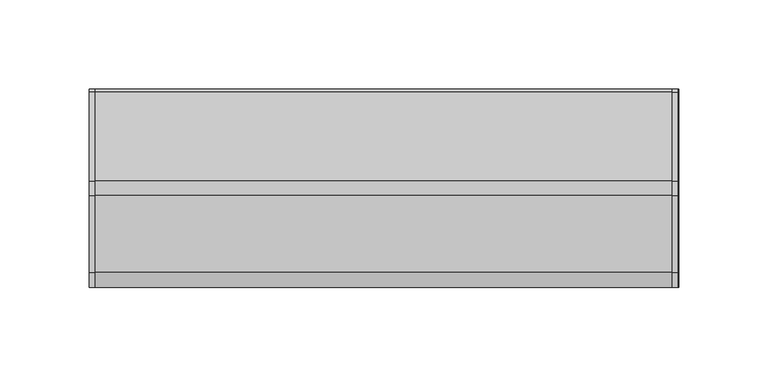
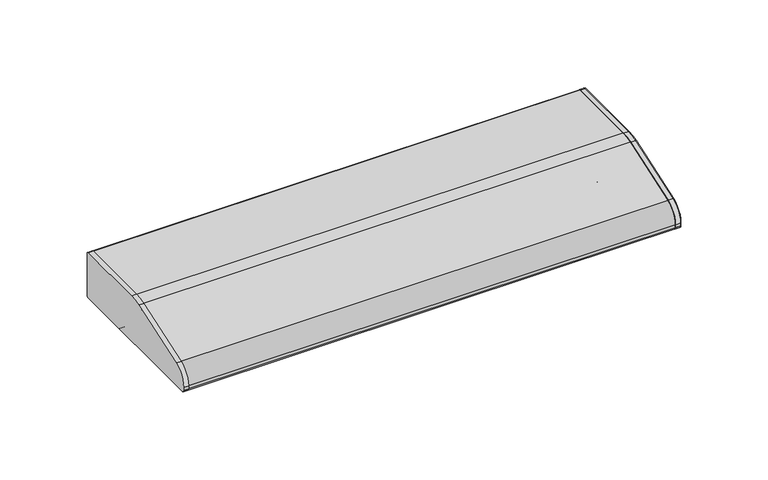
"""IFC4 building model written with IfcOpenShell, lengths in millimetres: light fixture geometry, HermanMiller_SupplementalProducts_G6136_UtilityTaskLight : AO Etho Canvas 24W."""

from ifc_helpers import new_model, si_unit, point, frame, frame_2d, origin, place, context, project, spatial, polyline, circle_curve, trimmed, segment, composite_curve, outline, extrude, source, transform, mapped, element, save


def light_fixture_56844cd6(model_context):
    return source(origin(), model_context, "Body", "SweptSolid", [
        extrude(outline(composite_curve([segment(polyline([(53.975, 1276.35), (-53.975, 1276.35)]), True, "CONTINUOUS"), segment(trimmed(circle_curve(frame_2d((-53.975, 1277.9375)), 1.5875), [point((-53.975, 1276.35))], [point((-55.5625, 1277.9375))], False, "CARTESIAN"), True, "CONTINUOUS"), segment(polyline([(-55.5625, 1277.9375), (-55.5625, 1279.9785714)]), True, "CONTINUOUS"), segment(trimmed(circle_curve(frame_2d((-42.8625, 1279.9785714)), 12.7), [point((-55.5625, 1279.9785714))], [point((-46.9814189, 1291.9920849))], False, "CARTESIAN"), True, "CONTINUOUS"), segment(polyline([(-46.9814189, 1291.9920849), (-4.0045045, 1306.727027)]), True, "CONTINUOUS"), segment(trimmed(circle_curve(frame_2d((4.2333333, 1282.7)), 25.4), [point((-4.0045045, 1306.727027))], [point((4.2333333, 1308.1))], False, "CARTESIAN"), True, "CONTINUOUS"), segment(polyline([(4.2333333, 1308.1), (53.975, 1308.1)]), True, "CONTINUOUS"), segment(trimmed(circle_curve(frame_2d((53.975, 1306.5125)), 1.5875), [point((53.975, 1308.1))], [point((55.5625, 1306.5125))], False, "CARTESIAN"), True, "CONTINUOUS"), segment(polyline([(55.5625, 1306.5125), (55.5625, 1277.9375)]), True, "CONTINUOUS"), segment(trimmed(circle_curve(frame_2d((53.975, 1277.9375)), 1.5875), [point((55.5625, 1277.9375))], [point((53.975, 1276.35))], False, "CARTESIAN"), True, "CONTINUOUS")], self_intersect=False)), frame((161.544, 0.0, 0.0), z_axis=(1.0, 0.0, 0.0), x_axis=(0.0, 1.0, 0.0)), (0.0, 0.0, 1.0), 3.175),
        extrude(outline(composite_curve([segment(trimmed(circle_curve(frame_2d((53.975, 1306.5125)), 1.5875), [point((53.975, 1308.1))], [point((55.5625, 1306.5125))], False, "CARTESIAN"), True, "CONTINUOUS"), segment(polyline([(55.5625, 1306.5125), (55.5625, 1277.9375)]), True, "CONTINUOUS"), segment(trimmed(circle_curve(frame_2d((53.975, 1277.9375)), 1.5875), [point((55.5625, 1277.9375))], [point((53.975, 1276.35))], False, "CARTESIAN"), True, "CONTINUOUS"), segment(polyline([(53.975, 1276.35), (-53.975, 1276.35)]), True, "CONTINUOUS"), segment(trimmed(circle_curve(frame_2d((-53.975, 1277.9375)), 1.5875), [point((-53.975, 1276.35))], [point((-55.5625, 1277.9375))], False, "CARTESIAN"), True, "CONTINUOUS"), segment(polyline([(-55.5625, 1277.9375), (-55.5625, 1279.9785714)]), True, "CONTINUOUS"), segment(trimmed(circle_curve(frame_2d((-42.8625, 1279.9785714)), 12.7), [point((-55.5625, 1279.9785714))], [point((-46.9814189, 1291.9920849))], False, "CARTESIAN"), True, "CONTINUOUS"), segment(polyline([(-46.9814189, 1291.9920849), (-4.0045045, 1306.727027)]), True, "CONTINUOUS"), segment(trimmed(circle_curve(frame_2d((4.2333333, 1282.7)), 25.4), [point((-4.0045045, 1306.727027))], [point((4.2333333, 1308.1))], False, "CARTESIAN"), True, "CONTINUOUS"), segment(polyline([(4.2333333, 1308.1), (53.975, 1308.1)]), True, "CONTINUOUS")], self_intersect=False)), frame((-164.719, 0.0, 0.0), z_axis=(1.0, 0.0, 0.0), x_axis=(0.0, 1.0, 0.0)), (0.0, 0.0, 1.0), 3.175),
        extrude(outline(composite_curve([segment(polyline([(55.5625, 1306.5125), (55.5625, 1277.9375)]), True, "CONTINUOUS"), segment(trimmed(circle_curve(frame_2d((53.975, 1277.9375)), 1.5875), [point((55.5625, 1277.9375))], [point((53.975, 1276.35))], False, "CARTESIAN"), True, "CONTINUOUS"), segment(polyline([(53.975, 1276.35), (19.05, 1276.35)]), True, "CONTINUOUS"), segment(trimmed(circle_curve(frame_2d((19.05, 1277.9375)), 1.5875), [point((19.05, 1276.35))], [point((17.4625, 1277.9375))], False, "CARTESIAN"), True, "CONTINUOUS"), segment(polyline([(17.4625, 1277.9375), (17.4625, 1306.5125), (4.4979167, 1306.5125)]), True, "CONTINUOUS"), segment(trimmed(circle_curve(frame_2d((4.4979167, 1281.1125)), 25.4), [point((4.4979167, 1306.5125))], [point((-3.7399212, 1305.139527))], True, "CARTESIAN"), True, "CONTINUOUS"), segment(polyline([(-3.7399212, 1305.139527), (-37.4564189, 1293.5795849)]), True, "CONTINUOUS"), segment(trimmed(circle_curve(frame_2d((-33.3375, 1281.5660714)), 12.7), [point((-37.4564189, 1293.5795849))], [point((-46.0375, 1281.5660714))], True, "CARTESIAN"), True, "CONTINUOUS"), segment(polyline([(-46.0375, 1281.5660714), (-46.0375, 1277.9375)]), True, "CONTINUOUS"), segment(trimmed(circle_curve(frame_2d((-47.625, 1277.9375)), 1.5875), [point((-46.0375, 1277.9375))], [point((-47.625, 1276.35))], False, "CARTESIAN"), True, "CONTINUOUS"), segment(polyline([(-47.625, 1276.35), (-53.975, 1276.35)]), True, "CONTINUOUS"), segment(trimmed(circle_curve(frame_2d((-53.975, 1277.9375)), 1.5875), [point((-53.975, 1276.35))], [point((-55.5625, 1277.9375))], False, "CARTESIAN"), True, "CONTINUOUS"), segment(polyline([(-55.5625, 1277.9375), (-55.5625, 1279.9785714)]), True, "CONTINUOUS"), segment(trimmed(circle_curve(frame_2d((-42.8625, 1279.9785714)), 12.7), [point((-55.5625, 1279.9785714))], [point((-46.9814189, 1291.9920849))], False, "CARTESIAN"), True, "CONTINUOUS"), segment(polyline([(-46.9814189, 1291.9920849), (-4.0045045, 1306.727027)]), True, "CONTINUOUS"), segment(trimmed(circle_curve(frame_2d((4.2333333, 1282.7)), 25.4), [point((-4.0045045, 1306.727027))], [point((4.2333333, 1308.1))], False, "CARTESIAN"), True, "CONTINUOUS"), segment(polyline([(4.2333333, 1308.1), (53.975, 1308.1)]), True, "CONTINUOUS"), segment(trimmed(circle_curve(frame_2d((53.975, 1306.5125)), 1.5875), [point((53.975, 1308.1))], [point((55.5625, 1306.5125))], False, "CARTESIAN"), True, "CONTINUOUS")], self_intersect=False)), frame((-164.719, 0.0, 0.0), z_axis=(1.0, 0.0, 0.0), x_axis=(0.0, 1.0, 0.0)), (0.0, 0.0, 1.0), 329.9040011),
        extrude(outline(composite_curve([segment(trimmed(circle_curve(frame_2d((1.5875, 1293.8125)), 9.525), [point((-7.9375, 1293.8125))], [point((11.1125, 1293.8125))], False, "CARTESIAN"), True, "CONTINUOUS"), segment(trimmed(circle_curve(frame_2d((1.5875, 1293.8125)), 9.525), [point((11.1125, 1293.8125))], [point((-7.9375, 1293.8125))], False, "CARTESIAN"), True, "CONTINUOUS")], self_intersect=False)), frame((139.319, 0.0, 0.0), z_axis=(1.0, 0.0, 0.0), x_axis=(0.0, 1.0, 0.0)), (0.0, 0.0, 1.0), 12.7),
        extrude(outline(composite_curve([segment(trimmed(circle_curve(frame_2d((1.5875, 1293.8125)), 9.525), [point((-7.9375, 1293.8125))], [point((11.1125, 1293.8125))], False, "CARTESIAN"), True, "CONTINUOUS"), segment(trimmed(circle_curve(frame_2d((1.5875, 1293.8125)), 9.525), [point((11.1125, 1293.8125))], [point((-7.9375, 1293.8125))], False, "CARTESIAN"), True, "CONTINUOUS")], self_intersect=False)), frame((-152.019, 0.0, 0.0), z_axis=(1.0, 0.0, 0.0), x_axis=(0.0, 1.0, 0.0)), (0.0, 0.0, 1.0), 12.7),
        extrude(outline(composite_curve([segment(trimmed(circle_curve(frame_2d((1.5875, 1293.8125)), 9.525), [point((-7.9375, 1293.8125))], [point((11.1125, 1293.8125))], False, "CARTESIAN"), True, "CONTINUOUS"), segment(trimmed(circle_curve(frame_2d((1.5875, 1293.8125)), 9.525), [point((11.1125, 1293.8125))], [point((-7.9375, 1293.8125))], False, "CARTESIAN"), True, "CONTINUOUS")], self_intersect=False)), frame((-139.319, 0.0, 0.0), z_axis=(1.0, 0.0, 0.0), x_axis=(0.0, 1.0, 0.0)), (0.0, 0.0, 1.0), 278.638),
        extrude(outline(composite_curve([segment(polyline([(17.4625, 1279.525), (-46.0375, 1279.525), (-46.0375, 1281.5660714)]), True, "CONTINUOUS"), segment(trimmed(circle_curve(frame_2d((-33.3375, 1281.5660714)), 12.7), [point((-46.0375, 1281.5660714))], [point((-37.4564189, 1293.5795849))], False, "CARTESIAN"), True, "CONTINUOUS"), segment(polyline([(-37.4564189, 1293.5795849), (-3.7399212, 1305.139527)]), True, "CONTINUOUS"), segment(trimmed(circle_curve(frame_2d((4.4979167, 1281.1125)), 25.4), [point((-3.7399212, 1305.139527))], [point((4.4979167, 1306.5125))], False, "CARTESIAN"), True, "CONTINUOUS"), segment(polyline([(4.4979167, 1306.5125), (17.4625, 1306.5125), (17.4625, 1279.525)]), True, "CONTINUOUS")], self_intersect=False)), frame((152.019, 0.0, 0.0), z_axis=(1.0, 0.0, 0.0), x_axis=(0.0, 1.0, 0.0)), (0.0, 0.0, 1.0), 9.525),
        extrude(outline(composite_curve([segment(polyline([(17.4625, 1279.525), (-46.0375, 1279.525), (-46.0375, 1281.5660714)]), True, "CONTINUOUS"), segment(trimmed(circle_curve(frame_2d((-33.3375, 1281.5660714)), 12.7), [point((-46.0375, 1281.5660714))], [point((-37.4564189, 1293.5795849))], False, "CARTESIAN"), True, "CONTINUOUS"), segment(polyline([(-37.4564189, 1293.5795849), (-3.7399212, 1305.139527)]), True, "CONTINUOUS"), segment(trimmed(circle_curve(frame_2d((4.4979167, 1281.1125)), 25.4), [point((-3.7399212, 1305.139527))], [point((4.4979167, 1306.5125))], False, "CARTESIAN"), True, "CONTINUOUS"), segment(polyline([(4.4979167, 1306.5125), (17.4625, 1306.5125), (17.4625, 1279.525)]), True, "CONTINUOUS")], self_intersect=False)), frame((-161.544, 0.0, 0.0), z_axis=(1.0, 0.0, 0.0), x_axis=(0.0, 1.0, 0.0)), (0.0, 0.0, 1.0), 9.525),
    ])


if __name__ == "__main__":
    model = new_model("IFC4")
    model_context = context("Model", 3, world=origin())
    ifc_project = project(units=[si_unit("LENGTHUNIT", "METRE", prefix="MILLI")], contexts=[model_context])
    site = spatial("IfcSite", under=ifc_project)
    building = spatial("IfcBuilding", under=site)
    placement = place(None, origin())
    light_fixture_shape = light_fixture_56844cd6(model_context)
    element("IfcLightFixture", 1, ObjectType="HermanMiller_SupplementalProducts_G6136_UtilityTaskLight : AO Etho Canvas 24W", at=placement, inside=building, context=model_context, shape_type="MappedRepresentation", body=[
        mapped(light_fixture_shape, transform((0.0, 0.0, 0.0), x_axis=(1.0, 0.0, 0.0), y_axis=(0.0, 1.0, 0.0), z_axis=(0.0, 0.0, 1.0))),
    ])
    save(model, "model.ifc")
